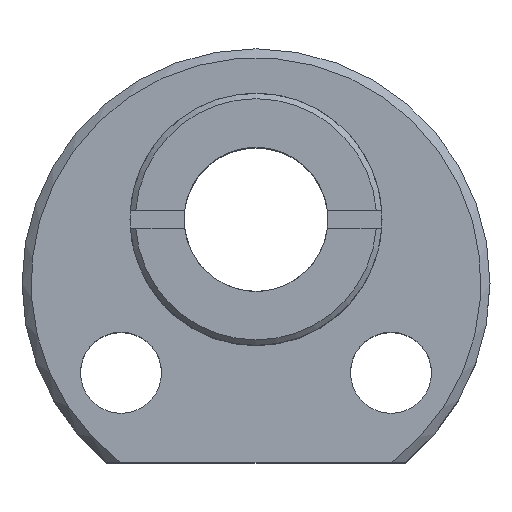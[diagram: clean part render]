
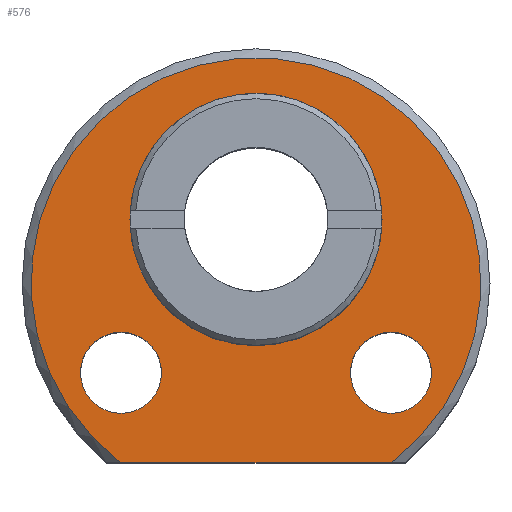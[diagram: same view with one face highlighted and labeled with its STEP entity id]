
A CAD part, top view. The second image highlights one B-rep face of the part: STEP entity #576.
In plain terms, the highlighted planar face has unit normal (0, 0, 1).
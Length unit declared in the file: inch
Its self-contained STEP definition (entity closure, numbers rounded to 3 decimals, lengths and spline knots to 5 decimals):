
#14=LINE($,#921,#34);
#34=VECTOR($,#710,0.59055);
#73=PLANE($,#642);
#109=FACE_BOUND($,#188,.T.);
#110=FACE_BOUND($,#189,.T.);
#111=FACE_BOUND($,#190,.T.);
#135=FACE_OUTER_BOUND($,#187,.T.);
#187=EDGE_LOOP($,(#425,#426));
#188=EDGE_LOOP($,(#427));
#189=EDGE_LOOP($,(#428));
#190=EDGE_LOOP($,(#429));
#228=CIRCLE($,#624,0.49213);
#229=CIRCLE($,#627,0.08858);
#230=CIRCLE($,#629,0.08858);
#236=CIRCLE($,#641,0.27559);
#265=VERTEX_POINT($,#916);
#266=VERTEX_POINT($,#920);
#271=VERTEX_POINT($,#939);
#272=VERTEX_POINT($,#942);
#278=VERTEX_POINT($,#960);
#319=EDGE_CURVE($,#266,#265,#14,.T.);
#326=EDGE_CURVE($,#266,#265,#228,.T.);
#327=EDGE_CURVE($,#271,#271,#229,.T.);
#328=EDGE_CURVE($,#272,#272,#230,.T.);
#334=EDGE_CURVE($,#278,#278,#236,.T.);
#425=ORIENTED_EDGE($,*,*,#326,.F.);
#426=ORIENTED_EDGE($,*,*,#319,.T.);
#427=ORIENTED_EDGE($,*,*,#327,.T.);
#428=ORIENTED_EDGE($,*,*,#328,.T.);
#429=ORIENTED_EDGE($,*,*,#334,.T.);
#576=ADVANCED_FACE($,(#135,#109,#110,#111),#73,.F.);
#624=AXIS2_PLACEMENT_3D($,#936,#724,#725);
#627=AXIS2_PLACEMENT_3D($,#940,#730,#731);
#629=AXIS2_PLACEMENT_3D($,#943,#734,#735);
#641=AXIS2_PLACEMENT_3D($,#961,#758,#759);
#642=AXIS2_PLACEMENT_3D($,#962,#760,#761);
#710=DIRECTION($,(1.,0.,0.));
#724=DIRECTION('center_axis',(0.,0.,-1.));
#725=DIRECTION('ref_axis',(-1.,0.,0.));
#730=DIRECTION('center_axis',(0.,0.,-1.));
#731=DIRECTION('ref_axis',(1.,0.,0.));
#734=DIRECTION('center_axis',(0.,0.,-1.));
#735=DIRECTION('ref_axis',(1.,0.,0.));
#758=DIRECTION('center_axis',(0.,0.,-1.));
#759=DIRECTION('ref_axis',(-1.,0.,0.));
#760=DIRECTION('center_axis',(0.,0.,-1.));
#761=DIRECTION('ref_axis',(-1.,0.,0.));
#916=CARTESIAN_POINT('',(0.29528,-0.3937,0.47244));
#920=CARTESIAN_POINT('',(-0.29528,-0.3937,0.47244));
#921=CARTESIAN_POINT($,(0.16352,-0.3937,0.47244));
#936=CARTESIAN_POINT('Origin',(0.,0.,0.47244));
#939=CARTESIAN_POINT('',(-0.20669,-0.19685,0.47244));
#940=CARTESIAN_POINT('Origin',(-0.29528,-0.19685,0.47244));
#942=CARTESIAN_POINT('',(0.38386,-0.19685,0.47244));
#943=CARTESIAN_POINT('Origin',(0.29528,-0.19685,0.47244));
#960=CARTESIAN_POINT('',(0.27559,0.1378,0.47244));
#961=CARTESIAN_POINT('Origin',(0.,0.1378,
0.47244));
#962=CARTESIAN_POINT('Origin',(0.,0.,0.47244));
